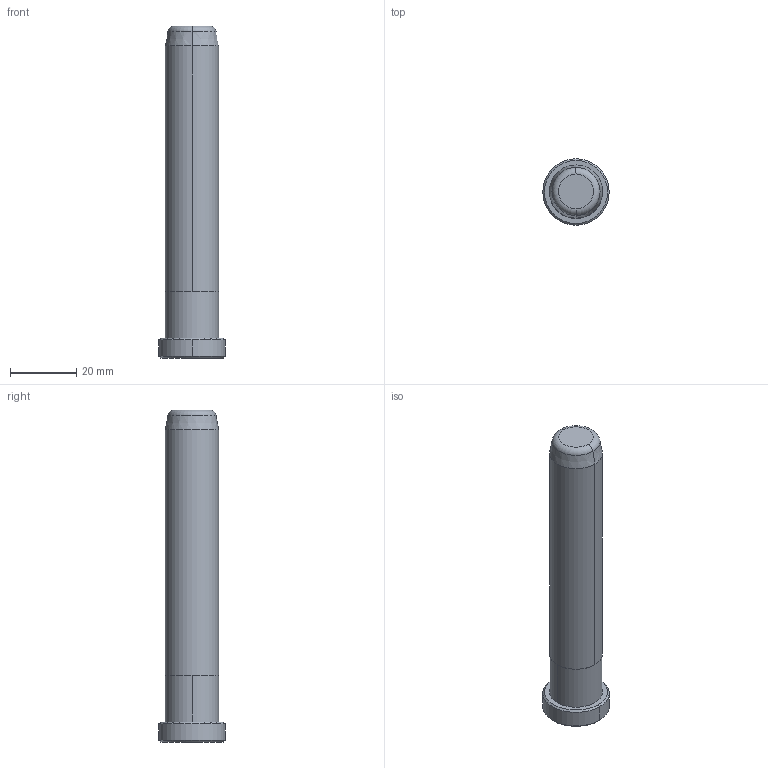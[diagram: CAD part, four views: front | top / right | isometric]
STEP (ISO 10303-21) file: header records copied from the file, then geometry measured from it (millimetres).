
FILE_DESCRIPTION((''),'2;1');
FILE_NAME('B80816100','2018-01-06T',('MANU'),(''),'PRO/ENGINEER BY PARAMETRIC TECHNOLOGY CORPORATION, 2012130','PRO/ENGINEER BY PARAMETRIC TECHNOLOGY CORPORATION, 2012130','');
FILE_SCHEMA(('CONFIG_CONTROL_DESIGN'));
Length unit declared in the file: millimetre
Products named in the file (1): B80816100
Bounding box: 20 x 20 x 100 mm (x, y, z)
Volume: 20600.3 mm3; surface area: 5602.5 mm2
Topology: 1 solids, 1 shells, 18 faces, 34 edges, 20 vertices
Faces by surface type: cone 6, cylinder 6, plane 4, torus 2
Entity records: 494 total; most frequent: DIRECTION 92, CARTESIAN_POINT 72, ORIENTED_EDGE 68, AXIS2_PLACEMENT_3D 40, EDGE_CURVE 34, CIRCLE 22, VERTEX_POINT 20, EDGE_LOOP 20
